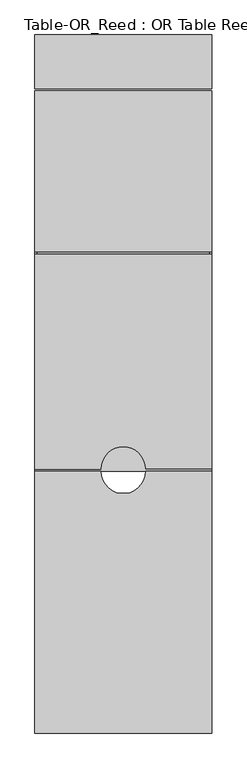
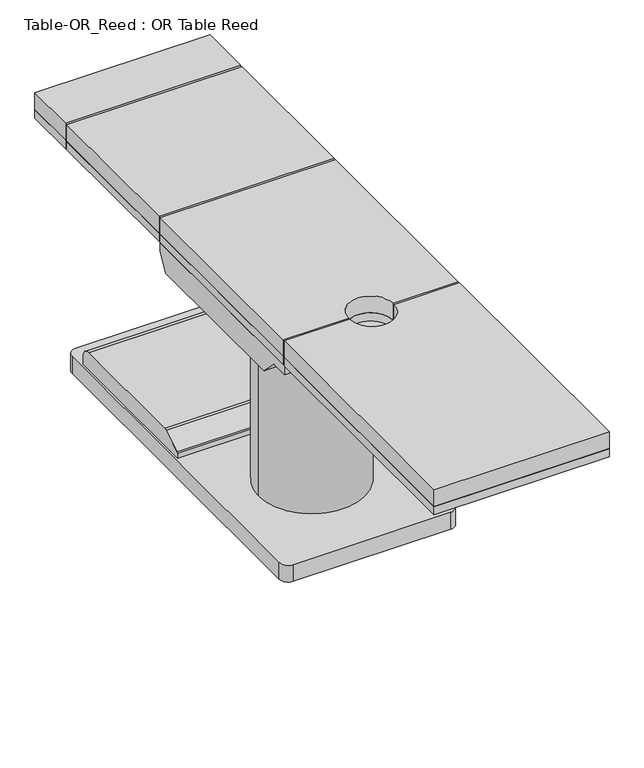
"""IFC4 building model written with IfcOpenShell, lengths in millimetres: proxy geometry, Table-OR_Reed : OR Table Reed."""

from ifc_helpers import new_model, si_unit, point, frame, frame_2d, origin, origin_with_axes, place, context, project, spatial, polyline, circle_curve, trimmed, segment, composite_curve, outline, extrude, source, transform, mapped, element, save


def table_or_reed_or_table_reed_c54af461(model_context):
    return source(origin(), model_context, "Body", "SweptSolid", [
        extrude(outline(composite_curve([segment(polyline([(-265.2326428, 50.8), (-265.2326428, 65.5714476)]), True, "CONTINUOUS"), segment(trimmed(circle_curve(frame_2d((-260.6525449, 65.5714476)), 4.5800979), [point((-265.2326428, 65.5714476))], [point((-262.9425939, 69.5379287))], False, "CARTESIAN"), True, "CONTINUOUS"), segment(polyline([(-262.9425939, 69.5379287), (-207.9471603, 101.2895571)]), True, "CONTINUOUS"), segment(trimmed(circle_curve(frame_2d((-201.0383459, 89.3231396)), 13.8176287), [point((-207.9471603, 101.2895571))], [point((-201.0383459, 103.1407684))], False, "CARTESIAN"), True, "CONTINUOUS"), segment(polyline([(-201.0383459, 103.1407684), (176.2592316, 103.1407684)]), True, "CONTINUOUS"), segment(trimmed(circle_curve(frame_2d((176.2592316, 76.2)), 26.9407684), [point((176.2592316, 103.1407684))], [point((203.2, 76.2))], False, "CARTESIAN"), True, "CONTINUOUS"), segment(polyline([(203.2, 76.2), (203.2, 50.8), (-265.2326428, 50.8)]), True, "CONTINUOUS")], self_intersect=False)), frame((-427.0204762, 0.0, 0.0), z_axis=(1.0, 0.0, 0.0), x_axis=(0.0, 1.0, 0.0)), (0.0, 0.0, 1.0), 488.95),
        extrude(outline(composite_curve([segment(polyline([(-433.3704762, -781.05), (-433.3704762, 247.65)]), True, "CONTINUOUS"), segment(trimmed(circle_curve(frame_2d((-407.9704762, 247.65)), 25.4), [point((-433.3704762, 247.65))], [point((-407.9704762, 273.05))], False, "CARTESIAN"), True, "CONTINUOUS"), segment(polyline([(-407.9704762, 273.05), (42.8795238, 273.05)]), True, "CONTINUOUS"), segment(trimmed(circle_curve(frame_2d((42.8795238, 247.65)), 25.4), [point((42.8795238, 273.05))], [point((68.2795238, 247.65))], False, "CARTESIAN"), True, "CONTINUOUS"), segment(polyline([(68.2795238, 247.65), (68.2795238, -781.05)]), True, "CONTINUOUS"), segment(trimmed(circle_curve(frame_2d((42.8795238, -781.05)), 25.4), [point((68.2795238, -781.05))], [point((42.8795238, -806.45))], False, "CARTESIAN"), True, "CONTINUOUS"), segment(polyline([(42.8795238, -806.45), (-407.9704762, -806.45)]), True, "CONTINUOUS"), segment(trimmed(circle_curve(frame_2d((-407.9704762, -781.05)), 25.4), [point((-407.9704762, -806.45))], [point((-433.3704762, -781.05))], False, "CARTESIAN"), True, "CONTINUOUS")], self_intersect=False)), origin_with_axes(), (0.0, 0.0, 1.0), 50.8),
        extrude(outline(composite_curve([segment(trimmed(circle_curve(frame_2d((-182.5454762, -508.0)), 152.4), [point((-334.9454762, -508.0))], [point((-30.1454762, -508.0))], False, "CARTESIAN"), True, "CONTINUOUS"), segment(trimmed(circle_curve(frame_2d((-182.5454762, -508.0)), 152.4), [point((-30.1454762, -508.0))], [point((-334.9454762, -508.0))], False, "CARTESIAN"), True, "CONTINUOUS")], self_intersect=False)), frame((0.0, 0.0, 50.8), z_axis=(0.0, 0.0, 1.0), x_axis=(1.0, 0.0, 0.0)), (0.0, 0.0, 1.0), 533.4),
        extrude(outline(polyline([(-806.45, 660.4), (-190.5, 660.4), (-190.5, 635.0), (-215.9, 584.2), (-704.85, 584.2), (-755.65, 635.0), (-806.45, 635.0), (-806.45, 660.4)])), frame((-433.3704762, 0.0, 0.0), z_axis=(1.0, 0.0, 0.0), x_axis=(0.0, 1.0, 0.0)), (0.0, 0.0, 1.0), 501.65),
        extrude(outline(polyline([(68.2795238, 431.8), (68.2795238, 279.4), (-433.3704762, 279.4), (-433.3704762, 431.8), (68.2795238, 431.8)])), frame((0.0, 0.0, 660.4), z_axis=(0.0, 0.0, 1.0), x_axis=(1.0, 0.0, 0.0)), (0.0, 0.0, 1.0), 25.4),
        extrude(outline(composite_curve([segment(polyline([(68.2795238, -1549.4), (-433.3704762, -1549.4), (-433.3704762, -806.45), (-246.0454762, -806.45)]), True, "CONTINUOUS"), segment(trimmed(circle_curve(frame_2d((-182.5454762, -806.45)), 63.5), [point((-246.0454762, -806.45))], [point((-119.0454762, -806.45))], True, "CARTESIAN"), True, "CONTINUOUS"), segment(polyline([(-119.0454762, -806.45), (68.2795238, -806.45), (68.2795238, -1549.4)]), True, "CONTINUOUS")], self_intersect=False)), frame((0.0, 0.0, 660.4), z_axis=(0.0, 0.0, 1.0), x_axis=(1.0, 0.0, 0.0)), (0.0, 0.0, 1.0), 25.4),
        extrude(outline(polyline([(68.2795238, 273.05), (68.2795238, -184.15), (-433.3704762, -184.15), (-433.3704762, 273.05), (68.2795238, 273.05)])), frame((0.0, 0.0, 660.4), z_axis=(0.0, 0.0, 1.0), x_axis=(1.0, 0.0, 0.0)), (0.0, 0.0, 1.0), 25.4),
        extrude(outline(composite_curve([segment(polyline([(68.2795238, -190.5), (68.2795238, -800.0275998), (-119.0453845, -800.0275998)]), True, "CONTINUOUS"), segment(trimmed(circle_curve(frame_2d((-182.5454318, -800.0275998)), 63.5000474), [point((-119.0453845, -800.0275998))], [point((-246.0454059, -800.1241335))], True, "CARTESIAN"), True, "CONTINUOUS"), segment(polyline([(-246.0454059, -800.1241335), (-433.3704762, -800.1241335), (-433.3704762, -190.5), (68.2795238, -190.5)]), True, "CONTINUOUS")], self_intersect=False)), frame((0.0, 0.0, 660.4), z_axis=(0.0, 0.0, 1.0), x_axis=(1.0, 0.0, 0.0)), (0.0, 0.0, 1.0), 25.4),
        extrude(outline(polyline([(68.2795238, 431.8), (68.2795238, 279.4), (-433.3704762, 279.4), (-433.3704762, 431.8), (68.2795238, 431.8)])), frame((0.0, 0.0, 685.8), z_axis=(0.0, 0.0, 1.0), x_axis=(1.0, 0.0, 0.0)), (0.0, 0.0, 1.0), 50.8),
        extrude(outline(composite_curve([segment(polyline([(68.2795238, -1549.4), (-433.3704762, -1549.4), (-433.3704762, -806.45), (-246.0454762, -806.45)]), True, "CONTINUOUS"), segment(trimmed(circle_curve(frame_2d((-182.5454762, -806.45)), 63.5), [point((-246.0454762, -806.45))], [point((-119.0454762, -806.45))], True, "CARTESIAN"), True, "CONTINUOUS"), segment(polyline([(-119.0454762, -806.45), (68.2795238, -806.45), (68.2795238, -1549.4)]), True, "CONTINUOUS")], self_intersect=False)), frame((0.0, 0.0, 685.8), z_axis=(0.0, 0.0, 1.0), x_axis=(1.0, 0.0, 0.0)), (0.0, 0.0, 1.0), 50.8),
        extrude(outline(polyline([(68.2795238, 273.05), (68.2795238, -184.15), (-433.3704762, -184.15), (-433.3704762, 273.05), (68.2795238, 273.05)])), frame((0.0, 0.0, 685.8), z_axis=(0.0, 0.0, 1.0), x_axis=(1.0, 0.0, 0.0)), (0.0, 0.0, 1.0), 50.8),
        extrude(outline(composite_curve([segment(polyline([(68.2795238, -190.5), (68.2795238, -800.0275998), (-119.0453845, -800.0275998)]), True, "CONTINUOUS"), segment(trimmed(circle_curve(frame_2d((-182.5454318, -800.0275998)), 63.5000474), [point((-119.0453845, -800.0275998))], [point((-246.0454059, -800.1241335))], True, "CARTESIAN"), True, "CONTINUOUS"), segment(polyline([(-246.0454059, -800.1241335), (-433.3704762, -800.1241335), (-433.3704762, -190.5), (68.2795238, -190.5)]), True, "CONTINUOUS")], self_intersect=False)), frame((0.0, 0.0, 685.8), z_axis=(0.0, 0.0, 1.0), x_axis=(1.0, 0.0, 0.0)), (0.0, 0.0, 1.0), 50.8),
    ])


if __name__ == "__main__":
    model = new_model("IFC4")
    model_context = context("Model", 3, world=origin())
    ifc_project = project(units=[si_unit("LENGTHUNIT", "METRE", prefix="MILLI")], contexts=[model_context])
    site = spatial("IfcSite", under=ifc_project)
    building = spatial("IfcBuilding", under=site)
    placement = place(None, origin())
    table_or_reed_or_table_reed_shape = table_or_reed_or_table_reed_c54af461(model_context)
    element("IfcBuildingElementProxy", 1, Name="Table-OR_Reed : OR Table Reed", ObjectType="Table-OR_Reed : OR Table Reed", at=placement, inside=building, context=model_context, shape_type="MappedRepresentation", body=[
        mapped(table_or_reed_or_table_reed_shape, transform((0.0, 0.0, 0.0), x_axis=(1.0, 0.0, 0.0), y_axis=(0.0, 1.0, 0.0), z_axis=(0.0, 0.0, 1.0))),
    ])
    save(model, "model.ifc")
